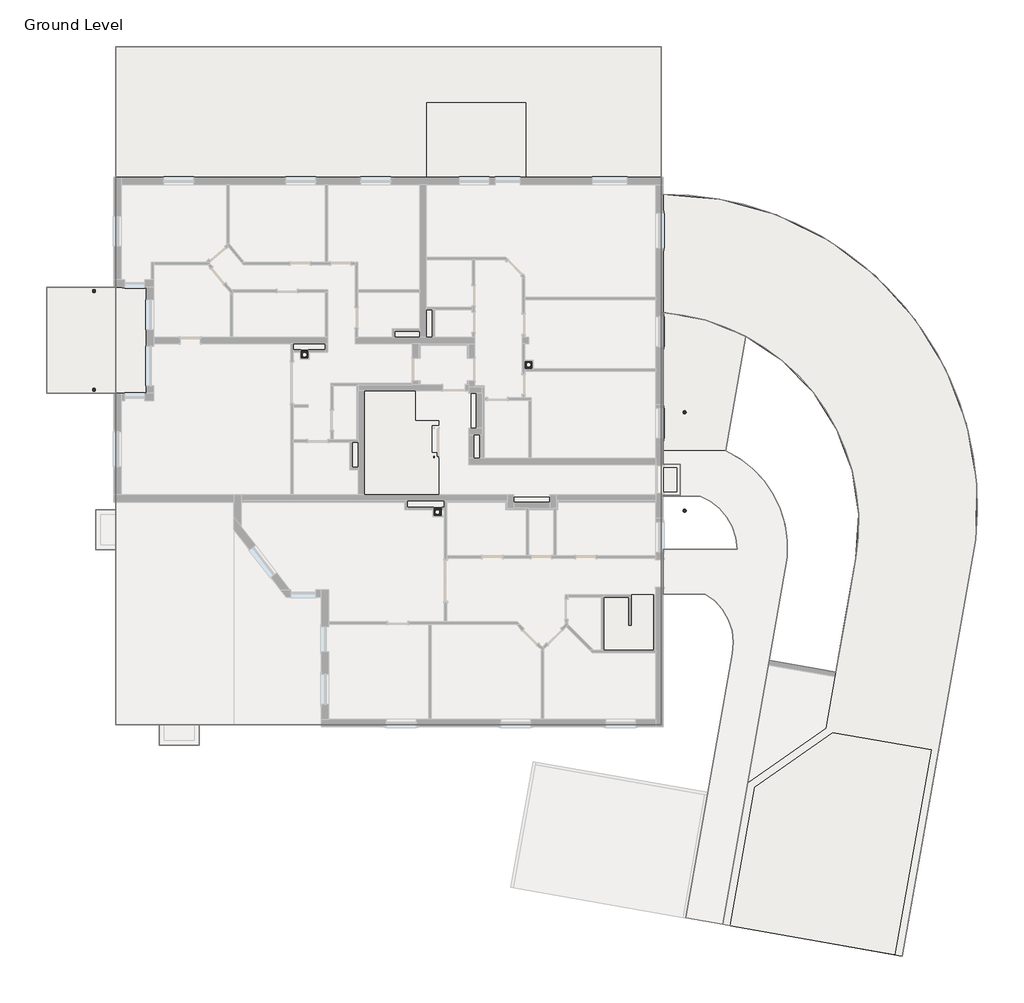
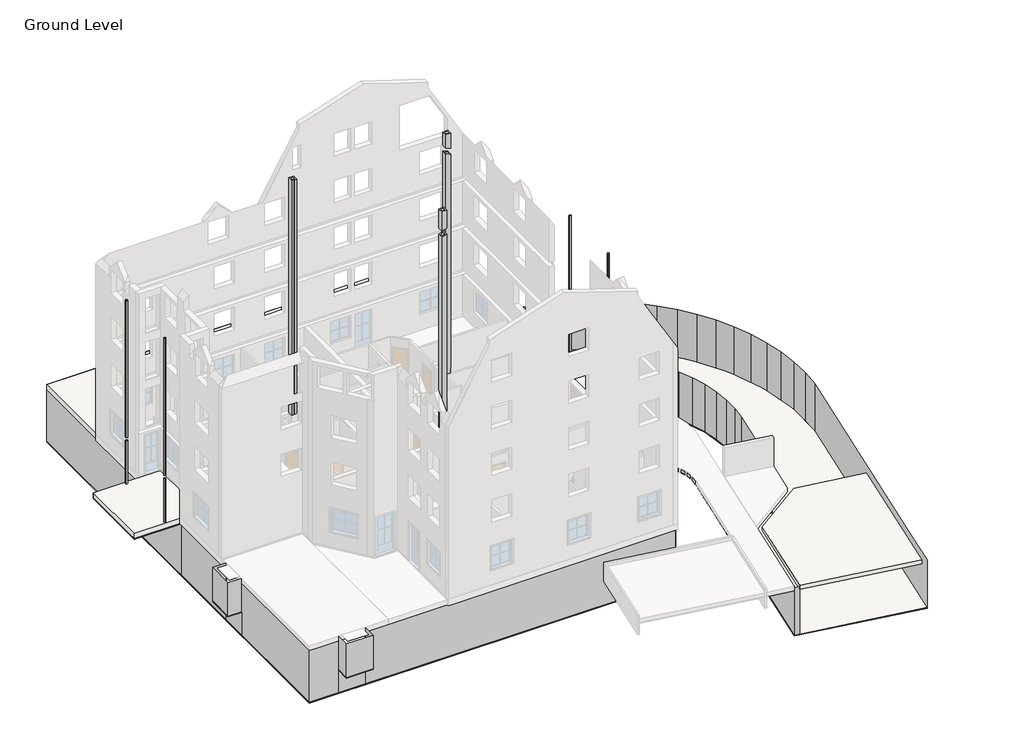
# One storey, part 6 of 6: 9 slabs, 7 columns, 6 proxies.
"""IFC4 building model written with IfcOpenShell, lengths in millimetres."""

from ifc_helpers import new_model, si_unit, point, frame, frame_2d, origin, origin_with_axes, place, context, project, spatial, polyline, circle_curve, ellipse_curve, trimmed, segment, composite_curve, outline, extrude, faceted_brep, triangles, element, save
from ifc_brep_helpers import plane_surface, revolved_surface, advanced_brep

model = new_model("IFC4")

# Units and contexts
model_context = context("Model", 3, world=origin())
ifc_project = project(units=[si_unit("LENGTHUNIT", "METRE", prefix="MILLI")], contexts=[model_context])

# Site, building, storey
site = spatial("IfcSite", under=ifc_project)
building = spatial("IfcBuilding", under=site)
storey = spatial("IfcBuildingStorey", under=building, Name="Ground Level", Elevation=0.0)

# Proxies
placement = place(None, origin())
element("IfcBuildingElementProxy", 1, Name="Building Element Proxy", at=placement, inside=storey, context=model_context, shape_type="Tessellation", body=[
    triangles([(9282.8089691, 10201.4215027, -3720.1595535), (9282.8089691, 10201.4215027, -3140.159491), (9282.8089691, 5465.8076523, -3720.1595535), (9282.8089691, 5465.8076523, -3140.159491)], [[1, 4, 2], [1, 3, 4]], closed=False),
    triangles([(-12557.1916626, 6467.6290604, -3720.1595535), (-12557.1916626, 6467.6290604, -449.1595387), (-12557.1916626, 2217.6290279, -3720.1595535), (-12557.1916626, 2217.6290279, -449.1595387)], [[1, 4, 2], [1, 3, 4]], closed=False),
    triangles([(-12557.1916626, -2432.3710075, -3720.1595535), (-12557.1916626, -2432.3710075, -2260.1595715), (-12557.1916626, -4032.3710197, -3720.1595535), (-12557.1916626, -4032.3710197, -2260.1595715)], [[1, 4, 2], [1, 3, 4]], closed=False),
    triangles([(-9223.5910721, -11052.3707245, -3720.1595535), (-9223.5910721, -11052.3707245, -2260.1595715), (-10823.5916656, -11052.3707245, -3720.1595535), (-10823.5916656, -11052.3707245, -2260.1595715)], [[1, 4, 2], [1, 3, 4]], closed=False),
    triangles([(-12557.1916626, 6467.6290604, -3720.1595535), (-12557.1916626, 6467.6290604, -100.0000008), (-12557.1916626, 16107.629599, -3720.1595535), (-12557.1916626, 16107.629599, -100.0000008), (-10221.4830688, 16107.629599, -3720.1595535), (-10221.4830688, 16107.629599, -100.0000008), (9282.8089691, 16107.629599, -3720.1595535), (9282.8089691, 16107.629599, -100.0000008), (9282.8089691, 10201.4215027, -3720.1595535), (9282.8089691, 10201.4215027, -100.0000008)], [[1, 4, 2], [1, 3, 4], [3, 6, 4], [3, 5, 6], [5, 8, 6], [5, 7, 8], [7, 10, 8], [7, 9, 10]], closed=False),
    triangles([(-12557.1916626, -2432.3710075, -3720.1595535), (-12557.1916626, -2432.3710075, -100.0000008), (-12557.1916626, 2217.6290279, -3720.1595535), (-12557.1916626, 2217.6290279, -100.0000008)], [[1, 4, 2], [1, 3, 4]], closed=False),
    triangles([(-10823.5916656, -11052.3707245, -3720.1595535), (-10823.5916656, -11052.3707245, -100.0000008), (-12557.1916626, -11052.3707245, -3720.1595535), (-12557.1916626, -11052.3707245, -100.0000008), (-12557.1916626, -4032.3710197, -3720.1595535), (-12557.1916626, -4032.3710197, -100.0000008)], [[1, 4, 2], [1, 3, 4], [3, 6, 4], [3, 5, 6]], closed=False),
    triangles([(-9223.5910721, -11052.3707245, -3720.1595535), (-9223.5910721, -11052.3707245, -100.0000008), (5711.1287247, -11052.3707245, -3720.1595535), (5711.1287247, -11052.3707245, -100.0000008), (9282.8089691, -11052.3707245, -3720.1595535), (9282.8089691, -11052.3707245, -100.0000008), (9282.8089691, 5465.8076523, -3720.1595535), (9282.8089691, 5465.8076523, -100.0000008)], [[1, 4, 2], [1, 3, 4], [3, 6, 4], [3, 5, 6], [5, 8, 6], [5, 7, 8]], closed=False),
    triangles([(9282.8089691, 16107.629599, -3720.1595535), (-12557.1916626, 16107.629599, -3720.1595535), (-12557.1916626, -11052.3707245, -3720.1595535), (9282.8089691, -11052.3707245, -3720.1595535)], [[2, 3, 4], [4, 1, 2]], closed=False),
])
element("IfcBuildingElementProxy", 2, Name="Building Element Proxy", at=placement, inside=storey, context=model_context, shape_type="Tessellation", body=[
    triangles([(-9223.5910721, -11052.3707245, -2260.1595715), (-9223.5910721, -11052.3707245, -100.0000008), (-9223.5910721, -11872.3706726, -2260.1595715), (-9223.5910721, -11872.3706726, -100.0000008), (-10823.5916656, -11872.3706726, -2260.1595715), (-10823.5916656, -11872.3706726, -100.0000008), (-10823.5916656, -11052.3707245, -2260.1595715), (-10823.5916656, -11052.3707245, -100.0000008)], [[1, 4, 2], [1, 3, 4], [3, 6, 4], [3, 5, 6], [5, 8, 6], [5, 7, 8]], closed=False),
    triangles([(-9223.5910721, -11872.3706726, -2260.1595715), (-9223.5910721, -11052.3707245, -2260.1595715), (-10823.5916656, -11052.3707245, -2260.1595715), (-10823.5916656, -11872.3706726, -2260.1595715)], [[3, 4, 1], [1, 2, 3]], closed=False),
])
element("IfcBuildingElementProxy", 3, Name="Building Element Proxy", at=placement, inside=storey, context=model_context, shape_type="Tessellation", body=[
    triangles([(-12557.1916626, -2432.3710075, -2260.1595715), (-12557.1916626, -2432.3710075, -100.0000008), (-13363.5912781, -2432.3710075, -2260.1595715), (-13363.5912781, -2432.3710075, -100.0000008), (-13363.5912781, -4032.3710197, -2260.1595715), (-13363.5912781, -4032.3710197, -100.0000008), (-12557.1916626, -4032.3710197, -2260.1595715), (-12557.1916626, -4032.3710197, -100.0000008)], [[1, 4, 2], [1, 3, 4], [3, 6, 4], [3, 5, 6], [5, 8, 6], [5, 7, 8]], closed=False),
    triangles([(-12557.1916626, -2432.3710075, -2260.1595715), (-13363.5912781, -2432.3710075, -2260.1595715), (-13363.5912781, -4032.3710197, -2260.1595715), (-12557.1916626, -4032.3710197, -2260.1595715)], [[2, 3, 1], [4, 1, 3]], closed=False),
])
element("IfcBuildingElementProxy", 4, Name="Building Element Proxy", at=placement, inside=storey, context=model_context, shape_type="Tessellation", body=[
    triangles([(-12557.1916626, 6467.6290604, -449.1595387), (-12557.1916626, 6467.6290604, -100.0000008), (-15337.1963928, 6467.6290604, -449.1595387), (-15337.1963928, 6467.6290604, -100.0000008), (-15337.1963928, 2217.6290279, -449.1595387), (-15337.1963928, 2217.6290279, -100.0000008), (-12557.1916626, 2217.6290279, -449.1595387), (-12557.1916626, 2217.6290279, -100.0000008)], [[1, 4, 2], [1, 3, 4], [3, 6, 4], [3, 5, 6], [5, 8, 6], [5, 7, 8]], closed=False),
    triangles([(-12557.1916626, 6467.6290604, -449.1595387), (-15337.1963928, 6467.6290604, -449.1595387), (-15337.1963928, 2217.6290279, -449.1595387), (-12557.1916626, 2217.6290279, -449.1595387)], [[2, 3, 4], [4, 1, 2]], closed=False),
])
element("IfcBuildingElementProxy", 5, Name="Building Element Proxy", at=placement, inside=storey, context=model_context, shape_type="Tessellation", body=[
    triangles([(13590.5518433, -8463.0683075, -3140.159491), (13590.5518433, -8463.0683075, -310.1595202), (12738.306189, -13373.552298, -3140.159491), (12738.306189, -13373.552298, -310.1595202), (12557.7834869, -14397.3467834, -3140.159491), (12557.7834869, -14397.3467834, -310.1595202), (11738.8509155, -19041.7458527, -3140.159491), (11738.8509155, -19041.7458527, -310.1595202)], [[1, 4, 2], [1, 3, 4], [3, 6, 4], [3, 5, 6], [5, 8, 6], [5, 7, 8]], closed=False),
    triangles([(9282.8089691, 5465.8076523, -3140.159491), (9282.8089691, 5465.8076523, -100.0000008), (10159.5601044, 5359.3926361, -3140.159491), (10159.5601044, 5359.3926361, -100.0000008), (11020.4854614, 5162.3546631, -3140.159491), (11020.4854614, 5162.3546631, -100.0000008), (11856.24375, 4876.8313934, -3140.159491), (11856.24375, 4876.8313934, -100.0000008), (12657.7680817, 4505.9200218, -3140.159491), (12657.7680817, 4505.9200218, -100.0000008), (13416.3624756, 4053.6458839, -3140.159491), (13416.3624756, 4053.6458839, -100.0000008), (14123.7948761, 3524.9153664, -3140.159491), (14123.7948761, 3524.9153664, -100.0000008), (14772.3901703, 2925.4656189, -3140.159491), (14772.3901703, 2925.4656189, -100.0000008), (15355.1115784, 2261.8000237, -3140.159491), (15355.1115784, 2261.8000237, -100.0000008), (15865.6373932, 1541.1195946, -3140.159491), (15865.6373932, 1541.1195946, -100.0000008), (16298.4272552, 771.2434038, -3140.159491), (16298.4272552, 771.2434038, -100.0000008), (16648.7861023, -39.475561, -3140.159491), (16648.7861023, -39.475561, -100.0000008), (16912.9130035, -882.2411345, -3140.159491), (16912.9130035, -882.2411345, -100.0000008), (17087.9406921, -1747.9094433, -3140.159491), (17087.9406921, -1747.9094433, -100.0000008), (17171.9716095, -2627.088192, -3140.159491), (17171.9716095, -2627.088192, -100.0000008), (17164.0941833, -3510.2383553, -3140.159491), (17164.0941833, -3510.2383553, -100.0000008), (17064.3932922, -4387.7783958, -3140.159491), (17064.3932922, -4387.7783958, -100.0000008), (16675.2856476, -6594.5137573, -3140.159491), (16675.2856476, -6594.5137573, -100.0000008), (16262.7282715, -8934.24478, -3140.159491), (16262.7282715, -8934.24478, -100.0000008), (15510.607901, -8801.6261307, -3140.159491), (15510.607901, -8801.6261307, -100.0000008), (13590.5518433, -8463.0683075, -3140.159491), (13590.5518433, -8463.0683075, -100.0000008)], [[1, 4, 2], [1, 3, 4], [3, 6, 4], [3, 5, 6], [5, 8, 6], [5, 7, 8], [7, 10, 8], [7, 9, 10], [9, 12, 10], [9, 11, 12], [11, 14, 12], [11, 13, 14], [13, 16, 14], [13, 15, 16], [15, 18, 16], [15, 17, 18], [17, 20, 18], [17, 19, 20], [19, 22, 20], [19, 21, 22], [21, 24, 22], [21, 23, 24], [23, 26, 24], [23, 25, 26], [25, 28, 26], [25, 27, 28], [27, 30, 28], [27, 29, 30], [29, 32, 30], [29, 31, 32], [31, 34, 32], [31, 33, 34], [33, 36, 34], [33, 35, 36], [35, 38, 36], [35, 37, 38], [37, 40, 38], [37, 39, 40], [39, 42, 40], [39, 41, 42]], closed=False),
    triangles([(12034.2933472, -19093.8403473, -3140.159491), (12034.2933472, -19093.8403473, -100.0000008), (11738.8509155, -19041.7458527, -3140.159491), (11738.8509155, -19041.7458527, -100.0000008)], [[1, 4, 2], [1, 3, 4]], closed=False),
    triangles([(9282.8089691, 10201.4215027, -3140.159491), (9282.8089691, 10201.4215027, -100.0000008), (10392.6609924, 10161.5460297, -3140.159491), (10392.6609924, 10161.5460297, -100.0000008), (11494.6402405, 10023.6858398, -3140.159491), (11494.6402405, 10023.6858398, -100.0000008), (12580.1111938, 9788.9199371, -3140.159491), (12580.1111938, 9788.9199371, -100.0000008), (13640.5708832, 9459.0883255, -3140.159491), (13640.5708832, 9459.0883255, -100.0000008), (14667.7093506, 9036.7745682, -3140.159491), (14667.7093506, 9036.7745682, -100.0000008), (15653.4805756, 8525.2877655, -3140.159491), (15653.4805756, 8525.2877655, -100.0000008), (16590.160611, 7928.635231, -3140.159491), (16590.160611, 7928.635231, -100.0000008), (17470.4092072, 7251.4916794, -3140.159491), (17470.4092072, 7251.4916794, -100.0000008), (18287.3325989, 6499.1620193, -3140.159491), (18287.3325989, 6499.1620193, -100.0000008), (19034.5288513, 5677.5418213, -3140.159491), (19034.5288513, 5677.5418213, -100.0000008), (19706.1436707, 4793.0667389, -3140.159491), (19706.1436707, 4793.0667389, -100.0000008), (20296.9169128, 3852.6671631, -3140.159491), (20296.9169128, 3852.6671631, -100.0000008), (20802.2163025, 2863.7109581, -3140.159491), (20802.2163025, 2863.7109581, -100.0000008), (21176.8329712, 1936.1001366, -3140.159491), (21176.8329712, 1936.1001366, -100.0000008), (21218.0862671, 1833.9466335, -3140.159491), (21218.0862671, 1833.9466335, -100.0000008), (21541.268866, 771.4416475, -3140.159491), (21541.268866, 771.4416475, -100.0000008), (21563.8628357, 663.7140661, -3140.159491), (21563.8628357, 663.7140661, -100.0000008), (21769.2293701, -315.4792173, -3140.159491), (21769.2293701, -315.4792173, -100.0000008), (21900.181842, -1418.3002018, -3140.159491), (21900.181842, -1418.3002018, -100.0000008), (21933.1030884, -2528.3808449, -3140.159491), (21933.1030884, -2528.3808449, -100.0000008), (21867.7326599, -3637.0239304, -3140.159491), (21867.7326599, -3637.0239304, -100.0000008), (19309.6039215, -18144.8994324, -3140.159491), (19309.6039215, -18144.8994324, -100.0000008), (18927.9481476, -20309.3766174, -3140.159491), (18927.9481476, -20309.3766174, -100.0000008)], [[1, 4, 2], [1, 3, 4], [3, 6, 4], [3, 5, 6], [5, 8, 6], [5, 7, 8], [7, 10, 8], [7, 9, 10], [9, 12, 10], [9, 11, 12], [11, 14, 12], [11, 13, 14], [13, 16, 14], [13, 15, 16], [15, 18, 16], [15, 17, 18], [17, 20, 18], [17, 19, 20], [19, 22, 20], [19, 21, 22], [21, 24, 22], [21, 23, 24], [23, 26, 24], [23, 25, 26], [25, 28, 26], [25, 27, 28], [27, 30, 28], [27, 29, 30], [29, 32, 30], [29, 31, 32], [31, 34, 32], [31, 33, 34], [33, 36, 34], [33, 35, 36], [35, 38, 36], [35, 37, 38], [37, 40, 38], [37, 39, 40], [39, 42, 40], [39, 41, 42], [41, 44, 42], [41, 43, 44], [43, 46, 44], [43, 45, 46], [45, 48, 46], [45, 47, 48]], closed=False),
    triangles([(18927.9481476, -20309.3766174, -3140.159491), (21867.7326599, -3637.0239304, -3140.159491), (21933.1030884, -2528.3808449, -3140.159491), (21900.181842, -1418.3002018, -3140.159491), (21769.2293701, -315.4792173, -3140.159491), (21541.268866, 771.4416475, -3140.159491), (21218.0862671, 1833.9466335, -3140.159491), (20802.2163025, 2863.7109581, -3140.159491), (20296.9169128, 3852.6671631, -3140.159491), (19706.1436707, 4793.0667389, -3140.159491), (19034.5288513, 5677.5418213, -3140.159491), (18287.3325989, 6499.1620193, -3140.159491), (17470.4092072, 7251.4916794, -3140.159491), (16590.160611, 7928.635231, -3140.159491), (15653.4805756, 8525.2877655, -3140.159491), (14667.7093506, 9036.7745682, -3140.159491), (13640.5708832, 9459.0883255, -3140.159491), (12580.1111938, 9788.9199371, -3140.159491), (11494.6402405, 10023.6858398, -3140.159491), (10392.6609924, 10161.5460297, -3140.159491), (9282.8089691, 10201.4215027, -3140.159491), (9282.8089691, 5465.8076523, -3140.159491), (10159.5601044, 5359.3926361, -3140.159491), (11020.4854614, 5162.3546631, -3140.159491), (11856.24375, 4876.8313934, -3140.159491), (12657.7680817, 4505.9200218, -3140.159491), (13416.3624756, 4053.6458839, -3140.159491), (14123.7948761, 3524.9153664, -3140.159491), (14772.3901703, 2925.4656189, -3140.159491), (15355.1115784, 2261.8000237, -3140.159491), (15865.6373932, 1541.1195946, -3140.159491), (16298.4272552, 771.2434038, -3140.159491), (16648.7861023, -39.475561, -3140.159491), (16912.9130035, -882.2411345, -3140.159491), (17087.9406921, -1747.9094433, -3140.159491), (17171.9716095, -2627.088192, -3140.159491), (17164.0941833, -3510.2383553, -3140.159491), (17064.3932922, -4387.7783958, -3140.159491), (16262.7282715, -8934.24478, -3140.159491), (13590.5518433, -8463.0683075, -3140.159491), (12738.306189, -13373.552298, -3140.159491), (11738.8509155, -19041.7458527, -3140.159491)], [[39, 41, 1], [26, 27, 15], [41, 39, 40], [10, 30, 31], [13, 28, 29], [14, 27, 28], [29, 30, 11], [41, 42, 1], [15, 27, 14], [20, 23, 19], [21, 22, 20], [20, 22, 23], [23, 24, 19], [26, 16, 25], [16, 26, 15], [25, 16, 17], [18, 19, 24], [18, 25, 17], [18, 24, 25], [37, 38, 2], [35, 36, 4], [34, 35, 5], [37, 2, 36], [3, 36, 2], [35, 4, 5], [36, 3, 4], [38, 39, 2], [34, 5, 6], [29, 11, 12], [13, 14, 28], [29, 12, 13], [32, 33, 7], [31, 32, 9], [32, 7, 8], [8, 9, 32], [11, 30, 10], [9, 10, 31], [7, 33, 6], [33, 34, 6], [39, 1, 2]], closed=False),
])
element("IfcBuildingElementProxy", 6, Name="Building Element Proxy", at=placement, inside=storey, context=model_context, shape_type="Tessellation", body=[
    triangles([(11738.8509155, -19041.7458527, -310.1595202), (11738.8509155, -19041.7458527, -100.0000008), (10248.0349365, -18781.2733795, -310.1595202), (10248.0349365, -18781.2733795, -100.0000008), (10249.849942, -18770.9740082, -310.1595202), (10249.849942, -18770.9740082, -100.0000008), (12113.1583008, -8203.6289108, -310.1595202), (12113.1583008, -8203.6289108, -100.0000008), (12159.5566315, -7739.3892242, -310.1595202), (12159.5566315, -7739.3892242, -100.0000008), (12108.1772095, -7275.6745056, -310.1595202), (12108.1772095, -7275.6745056, -100.0000008), (11961.2791992, -6832.851535, -310.1595202), (11961.2791992, -6832.851535, -100.0000008), (11725.3133698, -6430.3697067, -310.1595202), (11725.3133698, -6430.3697067, -100.0000008), (11410.6442047, -6085.9075928, -310.1595202), (11410.6442047, -6085.9075928, -100.0000008), (11031.0906281, -5814.5939209, -310.1595202), (11031.0906281, -5814.5939209, -100.0000008), (9362.8035049, -5814.5939209, -310.1595202), (9362.8035049, -5814.5939209, -100.0000008), (9362.8035049, -4014.5939072, -310.1595202), (9362.8035049, -4014.5939072, -100.0000008), (12309.6439819, -4014.5939072, -310.1595202), (12309.6439819, -4014.5939072, -100.0000008), (12258.1110809, -3561.7892784, -310.1595202), (12258.1110809, -3561.7892784, -100.0000008), (12118.4858826, -3127.9776764, -310.1595202), (12118.4858826, -3127.9776764, -100.0000008), (11896.2296814, -2730.1214378, -310.1595202), (11896.2296814, -2730.1214378, -100.0000008), (11600.0303192, -2383.7776073, -310.1595202), (11600.0303192, -2383.7776073, -100.0000008), (11241.4719727, -2102.4885269, -310.1595202), (11241.4719727, -2102.4885269, -100.0000008), (10834.5747162, -1897.2530891, -310.1595202), (10834.5747162, -1897.2530891, -100.0000008), (9362.8035049, -1897.2530891, -310.1595202), (9362.8035049, -1897.2530891, -100.0000008), (9362.8035049, -1852.370945, -310.1595202), (9362.8035049, -1852.370945, -100.0000008), (10036.4083191, -1852.370945, -310.1595202), (10036.4083191, -1852.370945, -100.0000008), (10036.4083191, -612.3709791, -310.1595202), (10036.4083191, -612.3709791, -100.0000008), (9362.8035049, -612.3709791, -310.1595202), (9362.8035049, -612.3709791, -100.0000008), (9362.8035049, 5449.8940887, -310.1595202), (9362.8035049, 5449.8940887, -100.0000008), (10219.316922, 5338.5723953, -310.1595202), (10219.316922, 5338.5723953, -100.0000008), (11060.0365356, 5140.5902939, -310.1595202), (11060.0365356, 5140.5902939, -100.0000008), (11876.2181122, 4858.0075424, -310.1595202), (11876.2181122, 4858.0075424, -100.0000008), (12659.3737976, 4493.762915, -310.1595202), (12659.3737976, 4493.762915, -100.0000008), (11854.5147858, -70.8200504, -310.1595202), (11854.5147858, -70.8200504, -100.0000008), (12427.6321289, -390.5782308, -310.1595202), (12427.6321289, -390.5782308, -100.0000008), (12944.9470642, -794.4269451, -310.1595202), (12944.9470642, -794.4269451, -100.0000008), (13394.2277802, -1272.8163494, -310.1595202), (13394.2277802, -1272.8163494, -100.0000008), (13764.8481812, -1814.4337257, -310.1595202), (13764.8481812, -1814.4337257, -100.0000008), (14048.0448486, -2406.4714256, -310.1595202), (14048.0448486, -2406.4714256, -100.0000008), (14237.120517, -3034.9289955, -310.1595202), (14237.120517, -3034.9289955, -100.0000008), (14327.6045288, -3684.9457146, -310.1595202), (14327.6045288, -3684.9457146, -100.0000008), (14317.3574799, -4341.1498466, -310.1595202), (14317.3574799, -4341.1498466, -100.0000008), (13590.5518433, -8463.0683075, -310.1595202), (13590.5518433, -8463.0683075, -100.0000008)], [[1, 4, 2], [1, 3, 4], [3, 6, 4], [3, 5, 6], [5, 8, 6], [5, 7, 8], [7, 10, 8], [7, 9, 10], [9, 12, 10], [9, 11, 12], [11, 14, 12], [11, 13, 14], [13, 16, 14], [13, 15, 16], [15, 18, 16], [15, 17, 18], [17, 20, 18], [17, 19, 20], [19, 22, 20], [19, 21, 22], [21, 24, 22], [21, 23, 24], [23, 26, 24], [23, 25, 26], [25, 28, 26], [25, 27, 28], [27, 30, 28], [27, 29, 30], [29, 32, 30], [29, 31, 32], [31, 34, 32], [31, 33, 34], [33, 36, 34], [33, 35, 36], [35, 38, 36], [35, 37, 38], [37, 40, 38], [37, 39, 40], [39, 42, 40], [39, 41, 42], [41, 44, 42], [41, 43, 44], [43, 46, 44], [43, 45, 46], [45, 48, 46], [45, 47, 48], [47, 50, 48], [47, 49, 50], [49, 52, 50], [49, 51, 52], [51, 54, 52], [51, 53, 54], [53, 56, 54], [53, 55, 56], [55, 58, 56], [55, 57, 58], [57, 60, 58], [57, 59, 60], [59, 62, 60], [59, 61, 62], [61, 64, 62], [61, 63, 64], [63, 66, 64], [63, 65, 66], [65, 68, 66], [65, 67, 68], [67, 70, 68], [67, 69, 70], [69, 72, 70], [69, 71, 72], [71, 74, 72], [71, 73, 74], [73, 76, 74], [73, 75, 76], [75, 78, 76], [75, 77, 78]], closed=False),
    triangles([(14317.3574799, -4341.1498466, -310.1595202), (14327.6045288, -3684.9457146, -310.1595202), (14237.120517, -3034.9289955, -310.1595202), (14048.0448486, -2406.4714256, -310.1595202), (13764.8481812, -1814.4337257, -310.1595202), (13394.2277802, -1272.8163494, -310.1595202), (12944.9470642, -794.4269451, -310.1595202), (12427.6321289, -390.5782308, -310.1595202), (11854.5147858, -70.8200504, -310.1595202), (12659.3737976, 4493.762915, -310.1595202), (11876.2181122, 4858.0075424, -310.1595202), (11060.0365356, 5140.5902939, -310.1595202), (10219.316922, 5338.5723953, -310.1595202), (9362.8035049, 5449.8940887, -310.1595202), (9362.8035049, -612.3709791, -310.1595202), (10036.4083191, -612.3709791, -310.1595202), (10036.4083191, -1852.370945, -310.1595202), (9362.8035049, -1852.370945, -310.1595202), (9362.8035049, -1897.2530891, -310.1595202), (10834.5747162, -1897.2530891, -310.1595202), (11241.4719727, -2102.4885269, -310.1595202), (11600.0303192, -2383.7776073, -310.1595202), (11896.2296814, -2730.1214378, -310.1595202), (12118.4858826, -3127.9776764, -310.1595202), (12258.1110809, -3561.7892784, -310.1595202), (12309.6439819, -4014.5939072, -310.1595202), (9362.8035049, -4014.5939072, -310.1595202), (9362.8035049, -5814.5939209, -310.1595202), (11031.0906281, -5814.5939209, -310.1595202), (11410.6442047, -6085.9075928, -310.1595202), (11725.3133698, -6430.3697067, -310.1595202), (11961.2791992, -6832.851535, -310.1595202), (12108.1772095, -7275.6745056, -310.1595202), (12159.5566315, -7739.3892242, -310.1595202), (12113.1583008, -8203.6289108, -310.1595202), (10248.0349365, -18781.2733795, -310.1595202), (11738.8509155, -19041.7458527, -310.1595202), (12738.306189, -13373.552298, -310.1595202), (13590.5518433, -8463.0683075, -310.1595202)], [[27, 28, 29], [31, 26, 30], [26, 27, 29], [30, 26, 29], [9, 21, 8], [21, 22, 7], [35, 36, 38], [13, 14, 15], [13, 15, 16], [18, 19, 17], [20, 9, 16], [16, 12, 13], [16, 9, 12], [12, 9, 11], [20, 21, 9], [16, 17, 20], [20, 17, 19], [38, 36, 37], [34, 35, 39], [33, 1, 32], [33, 34, 39], [1, 33, 39], [26, 1, 2], [31, 1, 26], [26, 2, 25], [39, 35, 38], [25, 2, 3], [21, 7, 8], [9, 10, 11], [23, 24, 5], [23, 6, 22], [4, 5, 24], [7, 22, 6], [23, 5, 6], [3, 4, 24], [24, 25, 3], [31, 32, 1]], closed=False),
])

# Columns
element("IfcColumn", 7, ObjectType="AT Kamin : 300/300/160", at=placement, inside=storey, context=model_context, shape_type="AdvancedBrep", body=[
    advanced_brep(
    [(-4857.1962165, 3917.6290541, 17750.0), (-5157.1962165, 3917.6290541, 17750.0), (-5157.1962165, 3617.6290541, 17750.0), (-4857.1962165, 3617.6290541, 17750.0), (-5087.1962165, 3767.6290541, 17750.0), (-4927.1962165, 3767.6290541, 17750.0), (-4857.1962165, 3917.6290541, 0.0), (-4857.1962165, 3617.6290541, 0.0), (-5157.1962165, 3617.6290541, 0.0), (-5157.1962165, 3917.6290541, 0.0), (-5087.1962165, 3767.6290541, 0.0), (-4927.1962165, 3767.6290541, 0.0), (-4857.1962165, 3917.6290541, 16902.7215009), (-4857.1962165, 3917.6290541, 16524.1951001), (-5157.1962165, 3917.6290541, 16426.7191913), (-5157.1962165, 3917.6290541, 16805.245592), (-5157.1962165, 3617.6290541, 16426.7191913), (-5157.1962165, 3617.6290541, 16805.245592), (-4857.1962165, 3617.6290541, 16524.1951001), (-4857.1962165, 3617.6290541, 16902.7215009)],
    [
        (0, 1),
        (1, 2),
        (2, 3),
        (3, 0),
        (4, 5, circle_curve(frame((-5007.1962165, 3767.6290541, 17750.0), z_axis=(0.0, 0.0, -1.0), x_axis=(1.0, 0.0, 0.0)), 80.0)),
        (5, 4, circle_curve(frame((-5007.1962165, 3767.6290541, 17750.0), z_axis=(0.0, 0.0, -1.0), x_axis=(1.0, 0.0, 0.0)), 80.0)),
        (6, 7),
        (7, 8),
        (8, 9),
        (9, 6),
        (10, 11, circle_curve(frame((-5007.1962165, 3767.6290541, 0.0), z_axis=(0.0, 0.0, 1.0), x_axis=(1.0, 0.0, 0.0)), 80.0)),
        (11, 10, circle_curve(frame((-5007.1962165, 3767.6290541, 0.0), z_axis=(0.0, 0.0, 1.0), x_axis=(1.0, 0.0, 0.0)), 80.0)),
        (0, 12),
        (12, 13),
        (13, 6),
        (9, 14),
        (14, 15),
        (15, 1),
        (8, 16),
        (16, 17),
        (17, 2),
        (7, 18),
        (18, 19),
        (19, 3),
        (4, 10),
        (11, 5),
    ],
    [
        plane_surface(frame((-5157.1962165, 3917.6290541, 17750.0), z_axis=(0.0, 0.0, 1.0), x_axis=(-1.0, 0.0, 0.0))),
        plane_surface(frame((-5157.1962165, 3917.6290541, 0.0), z_axis=(0.0, 0.0, -1.0), x_axis=(1.0, 0.0, 0.0))),
        plane_surface(frame((-4857.1962165, 3917.6290541, 17750.0), z_axis=(0.0, 1.0, 0.0), x_axis=(0.0, 0.0, -1.0))),
        plane_surface(frame((-5157.1962165, 3917.6290541, 17750.0), z_axis=(-1.0, 0.0, 0.0), x_axis=(0.0, 0.0, -1.0))),
        plane_surface(frame((-5157.1962165, 3617.6290541, 17750.0), z_axis=(0.0, -1.0, 0.0), x_axis=(0.0, 0.0, -1.0))),
        plane_surface(frame((-4857.1962165, 3617.6290541, 17750.0), z_axis=(1.0, 0.0, 0.0), x_axis=(0.0, 0.0, -1.0))),
        revolved_surface(polyline([(-4927.1962165, 3767.6290541, 0.0), (-4927.1962165, 3767.6290541, 17750.0)]), (-5007.1962165, 3767.6290541, 0.0), (0.0, 0.0, -1.0)),
    ],
    [
        (0, [[1, 2, 3, 4], [5, 6]]),
        (1, [[7, 8, 9, 10], [11, 12]]),
        (2, [[-1, 13, 14, 15, -10, 16, 17, 18]]),
        (3, [[-2, -18, -17, -16, -9, 19, 20, 21]]),
        (4, [[-3, -21, -20, -19, -8, 22, 23, 24]]),
        (5, [[-4, -24, -23, -22, -7, -15, -14, -13]]),
        (6, [[-5, 25, -12, 26]]),
        (6, [[-6, -26, -11, -25]]),
    ],
),
])
element("IfcColumn", 8, ObjectType="AT Kamin : 300/300/160", at=placement, inside=storey, context=model_context, shape_type="AdvancedBrep", body=[
    advanced_brep(
    [(4112.8037835, 3516.2076978, 17750.0), (3812.8037835, 3516.2076978, 17750.0), (3812.8037835, 3216.2076978, 17750.0), (4112.8037835, 3216.2076978, 17750.0), (3882.8037835, 3366.2076978, 17750.0), (4042.8037835, 3366.2076978, 17750.0), (4112.8037835, 3516.2076978, 16807.8848523), (3812.8037835, 3516.2076978, 16905.3607612), (3812.8037835, 3216.2076978, 16905.3607612), (4112.8037835, 3216.2076978, 16807.8848523), (3882.8037835, 3366.2076978, 16882.6163825), (4042.8037835, 3366.2076978, 16830.6292311)],
    [
        (0, 1),
        (1, 2),
        (2, 3),
        (3, 0),
        (4, 5, circle_curve(frame((3962.8037835, 3366.2076978, 17750.0), z_axis=(0.0, 0.0, -1.0), x_axis=(1.0, 0.0, 0.0)), 80.0)),
        (5, 4, circle_curve(frame((3962.8037835, 3366.2076978, 17750.0), z_axis=(0.0, 0.0, -1.0), x_axis=(1.0, 0.0, 0.0)), 80.0)),
        (0, 6),
        (6, 7),
        (7, 1),
        (7, 8),
        (8, 2),
        (8, 9),
        (9, 3),
        (9, 6),
        (4, 10),
        (10, 11, ellipse_curve(frame((3962.8037835, 3366.2076978, 16856.6228068), z_axis=(-0.30901699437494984, 0.0, -0.9510565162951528), x_axis=(0.9510565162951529, 0.0, -0.30901699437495)), 84.1169779, 80.0)),
        (11, 5),
        (11, 10, ellipse_curve(frame((3962.8037835, 3366.2076978, 16856.6228068), z_axis=(-0.30901699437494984, 0.0, -0.9510565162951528), x_axis=(0.9510565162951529, 0.0, -0.30901699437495)), 84.1169779, 80.0)),
    ],
    [
        plane_surface(frame((3812.8037835, 3516.2076978, 17750.0), z_axis=(0.0, 0.0, 1.0), x_axis=(-1.0, 0.0, 0.0))),
        plane_surface(frame((4112.8037835, 3516.2076978, 17750.0), z_axis=(0.0, 1.0, 0.0), x_axis=(0.0, 0.0, -1.0))),
        plane_surface(frame((3812.8037835, 3516.2076978, 17750.0), z_axis=(-1.0, 0.0, 0.0), x_axis=(0.0, 0.0, -1.0))),
        plane_surface(frame((3812.8037835, 3216.2076978, 17750.0), z_axis=(0.0, -1.0, 0.0), x_axis=(0.0, 0.0, -1.0))),
        plane_surface(frame((4112.8037835, 3216.2076978, 17750.0), z_axis=(1.0, 0.0, 0.0), x_axis=(0.0, 0.0, -1.0))),
        revolved_surface(polyline([(4042.8037835, 3366.2076978, 16830.6292311), (4042.8037835, 3366.2076978, 17750.0)]), (3962.8037835, 3366.2076978, 0.0), (0.0, 0.0, -1.0)),
        plane_surface(frame((6985.5802922, -11532.3709459, 15874.4631818), z_axis=(-0.30901699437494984, 0.0, -0.9510565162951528), x_axis=(0.0, 1.0, 0.0))),
    ],
    [
        (0, [[1, 2, 3, 4], [5, 6]]),
        (1, [[-1, 7, 8, 9]]),
        (2, [[-2, -9, 10, 11]]),
        (3, [[-3, -11, 12, 13]]),
        (4, [[-4, -13, 14, -7]]),
        (5, [[-5, 15, 16, 17]]),
        (5, [[-6, -17, 18, -15]]),
        (6, [[-8, -14, -12, -10], [-16, -18]]),
    ],
),
    advanced_brep(
    [(4112.8037835, 3516.2076978, 0.0), (4112.8037835, 3216.2076978, 0.0), (3812.8037835, 3216.2076978, 0.0), (3812.8037835, 3516.2076978, 0.0), (3882.8037835, 3366.2076978, 0.0), (4042.8037835, 3366.2076978, 0.0), (4112.8037835, 3516.2076978, 16429.3584516), (3812.8037835, 3516.2076978, 16526.8343605), (3812.8037835, 3216.2076978, 16526.8343605), (4112.8037835, 3216.2076978, 16429.3584516), (3882.8037835, 3366.2076978, 16504.0899817), (4042.8037835, 3366.2076978, 16452.1028303)],
    [
        (0, 1),
        (1, 2),
        (2, 3),
        (3, 0),
        (4, 5, circle_curve(frame((3962.8037835, 3366.2076978, 0.0), z_axis=(0.0, 0.0, 1.0), x_axis=(1.0, 0.0, 0.0)), 80.0)),
        (5, 4, circle_curve(frame((3962.8037835, 3366.2076978, 0.0), z_axis=(0.0, 0.0, 1.0), x_axis=(1.0, 0.0, 0.0)), 80.0)),
        (6, 7),
        (7, 8),
        (8, 9),
        (9, 6),
        (10, 11, ellipse_curve(frame((3962.8037835, 3366.2076978, 16478.096406), z_axis=(-0.30901699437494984, 0.0, -0.9510565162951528), x_axis=(0.9510565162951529, 0.0, -0.30901699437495)), 84.1169779, 80.0)),
        (11, 10, ellipse_curve(frame((3962.8037835, 3366.2076978, 16478.096406), z_axis=(-0.30901699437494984, 0.0, -0.9510565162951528), x_axis=(0.9510565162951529, 0.0, -0.30901699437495)), 84.1169779, 80.0)),
        (3, 7),
        (6, 0),
        (2, 8),
        (1, 9),
        (5, 11),
        (10, 4),
    ],
    [
        plane_surface(frame((3812.8037835, 3516.2076978, 0.0), z_axis=(0.0, 0.0, -1.0), x_axis=(1.0, 0.0, 0.0))),
        plane_surface(frame((6985.5802922, -11532.3709459, 15495.936781), z_axis=(0.30901699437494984, 0.0, 0.9510565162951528), x_axis=(0.0, 1.0, 0.0))),
        plane_surface(frame((4112.8037835, 3516.2076978, 17750.0), z_axis=(0.0, 1.0, 0.0), x_axis=(0.0, 0.0, -1.0))),
        plane_surface(frame((3812.8037835, 3516.2076978, 17750.0), z_axis=(-1.0, 0.0, 0.0), x_axis=(0.0, 0.0, -1.0))),
        plane_surface(frame((3812.8037835, 3216.2076978, 17750.0), z_axis=(0.0, -1.0, 0.0), x_axis=(0.0, 0.0, -1.0))),
        plane_surface(frame((4112.8037835, 3216.2076978, 17750.0), z_axis=(1.0, 0.0, 0.0), x_axis=(0.0, 0.0, -1.0))),
        revolved_surface(polyline([(4042.8037835, 3366.2076978, 0.0), (4042.8037835, 3366.2076978, 16504.0899817)]), (3962.8037835, 3366.2076978, 0.0), (0.0, 0.0, -1.0)),
    ],
    [
        (0, [[1, 2, 3, 4], [5, 6]]),
        (1, [[7, 8, 9, 10], [11, 12]]),
        (2, [[-4, 13, -7, 14]]),
        (3, [[-3, 15, -8, -13]]),
        (4, [[-2, 16, -9, -15]]),
        (5, [[-1, -14, -10, -16]]),
        (6, [[-6, 17, -11, 18]]),
        (6, [[-5, -18, -12, -17]]),
    ],
),
])
element("IfcColumn", 9, ObjectType="AT Kamin : 300/300/160", at=placement, inside=storey, context=model_context, shape_type="AdvancedBrep", body=[
    advanced_brep(
    [(463.5618728, -2382.3709459, 17750.0), (163.5618728, -2382.3709459, 17750.0), (163.5618728, -2682.3709459, 17750.0), (463.5618728, -2682.3709459, 17750.0), (233.5618728, -2532.3709459, 17750.0), (393.5618728, -2532.3709459, 17750.0), (463.5618728, -2382.3709459, 16623.4506996), (163.5618728, -2382.3709459, 16525.9747908), (163.5618728, -2682.3709459, 16525.9747908), (463.5618728, -2682.3709459, 16623.4506996), (233.5618728, -2532.3709459, 16548.7191695), (393.5618728, -2532.3709459, 16600.7063209)],
    [
        (0, 1),
        (1, 2),
        (2, 3),
        (3, 0),
        (4, 5, circle_curve(frame((313.5618728, -2532.3709459, 17750.0), z_axis=(0.0, 0.0, -1.0), x_axis=(1.0, 0.0, 0.0)), 80.0)),
        (5, 4, circle_curve(frame((313.5618728, -2532.3709459, 17750.0), z_axis=(0.0, 0.0, -1.0), x_axis=(1.0, 0.0, 0.0)), 80.0)),
        (0, 6),
        (6, 7),
        (7, 1),
        (7, 8),
        (8, 2),
        (8, 9),
        (9, 3),
        (9, 6),
        (4, 10),
        (10, 11, ellipse_curve(frame((313.5618728, -2532.3709459, 16574.7127452), z_axis=(0.30901699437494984, 0.0, -0.9510565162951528), x_axis=(-0.9510565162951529, 0.0, -0.30901699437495)), 84.1169779, 80.0)),
        (11, 5),
        (11, 10, ellipse_curve(frame((313.5618728, -2532.3709459, 16574.7127452), z_axis=(0.30901699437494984, 0.0, -0.9510565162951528), x_axis=(-0.9510565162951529, 0.0, -0.30901699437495)), 84.1169779, 80.0)),
    ],
    [
        plane_surface(frame((163.5618728, -2382.3709459, 17750.0), z_axis=(0.0, 0.0, 1.0), x_axis=(-1.0, 0.0, 0.0))),
        plane_surface(frame((463.5618728, -2382.3709459, 17750.0), z_axis=(0.0, 1.0, 0.0), x_axis=(0.0, 0.0, -1.0))),
        plane_surface(frame((163.5618728, -2382.3709459, 17750.0), z_axis=(-1.0, 0.0, 0.0), x_axis=(0.0, 0.0, -1.0))),
        plane_surface(frame((163.5618728, -2682.3709459, 17750.0), z_axis=(0.0, -1.0, 0.0), x_axis=(0.0, 0.0, -1.0))),
        plane_surface(frame((463.5618728, -2682.3709459, 17750.0), z_axis=(1.0, 0.0, 0.0), x_axis=(0.0, 0.0, -1.0))),
        revolved_surface(polyline([(393.5618728, -2532.3709459, 16548.7191695), (393.5618728, -2532.3709459, 17750.0)]), (313.5618728, -2532.3709459, 0.0), (0.0, 0.0, -1.0)),
        plane_surface(frame((-1841.5846805, 437.0391776, 15874.4631818), z_axis=(0.30901699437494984, 0.0, -0.9510565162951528), x_axis=(0.0, -1.0, 0.0))),
    ],
    [
        (0, [[1, 2, 3, 4], [5, 6]]),
        (1, [[-1, 7, 8, 9]]),
        (2, [[-2, -9, 10, 11]]),
        (3, [[-3, -11, 12, 13]]),
        (4, [[-4, -13, 14, -7]]),
        (5, [[-5, 15, 16, 17]]),
        (5, [[-6, -17, 18, -15]]),
        (6, [[-8, -14, -12, -10], [-16, -18]]),
    ],
),
    advanced_brep(
    [(463.5618728, -2382.3709459, 0.0), (463.5618728, -2682.3709459, 0.0), (163.5618728, -2682.3709459, 0.0), (163.5618728, -2382.3709459, 0.0), (233.5618728, -2532.3709459, 0.0), (393.5618728, -2532.3709459, 0.0), (463.5618728, -2382.3709459, 16244.9242989), (163.5618728, -2382.3709459, 16147.44839), (163.5618728, -2682.3709459, 16147.44839), (463.5618728, -2682.3709459, 16244.9242989), (233.5618728, -2532.3709459, 16170.1927688), (393.5618728, -2532.3709459, 16222.1799202)],
    [
        (0, 1),
        (1, 2),
        (2, 3),
        (3, 0),
        (4, 5, circle_curve(frame((313.5618728, -2532.3709459, 0.0), z_axis=(0.0, 0.0, 1.0), x_axis=(1.0, 0.0, 0.0)), 80.0)),
        (5, 4, circle_curve(frame((313.5618728, -2532.3709459, 0.0), z_axis=(0.0, 0.0, 1.0), x_axis=(1.0, 0.0, 0.0)), 80.0)),
        (6, 7),
        (7, 8),
        (8, 9),
        (9, 6),
        (10, 11, ellipse_curve(frame((313.5618728, -2532.3709459, 16196.1863445), z_axis=(0.30901699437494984, 0.0, -0.9510565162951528), x_axis=(-0.9510565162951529, 0.0, -0.30901699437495)), 84.1169779, 80.0)),
        (11, 10, ellipse_curve(frame((313.5618728, -2532.3709459, 16196.1863445), z_axis=(0.30901699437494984, 0.0, -0.9510565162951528), x_axis=(-0.9510565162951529, 0.0, -0.30901699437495)), 84.1169779, 80.0)),
        (3, 7),
        (6, 0),
        (2, 8),
        (1, 9),
        (5, 11),
        (10, 4),
    ],
    [
        plane_surface(frame((163.5618728, -2382.3709459, 0.0), z_axis=(0.0, 0.0, -1.0), x_axis=(1.0, 0.0, 0.0))),
        plane_surface(frame((-1841.5846805, 437.0391776, 15495.936781), z_axis=(-0.30901699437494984, 0.0, 0.9510565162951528), x_axis=(0.0, -1.0, 0.0))),
        plane_surface(frame((463.5618728, -2382.3709459, 17750.0), z_axis=(0.0, 1.0, 0.0), x_axis=(0.0, 0.0, -1.0))),
        plane_surface(frame((163.5618728, -2382.3709459, 17750.0), z_axis=(-1.0, 0.0, 0.0), x_axis=(0.0, 0.0, -1.0))),
        plane_surface(frame((163.5618728, -2682.3709459, 17750.0), z_axis=(0.0, -1.0, 0.0), x_axis=(0.0, 0.0, -1.0))),
        plane_surface(frame((463.5618728, -2682.3709459, 17750.0), z_axis=(1.0, 0.0, 0.0), x_axis=(0.0, 0.0, -1.0))),
        revolved_surface(polyline([(393.5618728, -2532.3709459, 0.0), (393.5618728, -2532.3709459, 16222.1799202)]), (313.5618728, -2532.3709459, 0.0), (0.0, 0.0, -1.0)),
    ],
    [
        (0, [[1, 2, 3, 4], [5, 6]]),
        (1, [[7, 8, 9, 10], [11, 12]]),
        (2, [[-4, 13, -7, 14]]),
        (3, [[-3, 15, -8, -13]]),
        (4, [[-2, 16, -9, -15]]),
        (5, [[-1, -14, -10, -16]]),
        (6, [[-6, 17, -11, 18]]),
        (6, [[-5, -18, -12, -17]]),
    ],
),
])
element("IfcColumn", 10, ObjectType="M_Round Column : 120", at=placement, inside=storey, context=model_context, shape_type="SweptSolid", body=[
    extrude(outline(composite_curve([segment(trimmed(circle_curve(frame_2d((10209.0690178, 1462.6290541)), 60.0), [point((10209.0690178, 1522.6290541))], [point((10269.0690178, 1462.6290541))], False, "CARTESIAN"), True, "CONTINUOUS"), segment(trimmed(circle_curve(frame_2d((10209.0690178, 1462.6290541)), 60.0), [point((10269.0690178, 1462.6290541))], [point((10149.0690178, 1462.6290541))], False, "CARTESIAN"), True, "CONTINUOUS"), segment(trimmed(circle_curve(frame_2d((10209.0690178, 1462.6290541)), 60.0), [point((10149.0690178, 1462.6290541))], [point((10209.0690178, 1522.6290541))], False, "CARTESIAN"), True, "CONTINUOUS")], self_intersect=False)), frame((0.0, 0.0, 2850.0), z_axis=(0.0, 0.0, 1.0), x_axis=(1.0, 0.0, 0.0)), (0.0, 0.0, 1.0), 8630.0),
    extrude(outline(composite_curve([segment(trimmed(circle_curve(frame_2d((10209.0690178, 1462.6290541)), 60.0), [point((10269.0690178, 1462.6290541))], [point((10149.0690178, 1462.6290541))], False, "CARTESIAN"), True, "CONTINUOUS"), segment(trimmed(circle_curve(frame_2d((10209.0690178, 1462.6290541)), 60.0), [point((10149.0690178, 1462.6290541))], [point((10209.0690178, 1522.6290541))], False, "CARTESIAN"), True, "CONTINUOUS"), segment(trimmed(circle_curve(frame_2d((10209.0690178, 1462.6290541)), 60.0), [point((10209.0690178, 1522.6290541))], [point((10269.0690178, 1462.6290541))], False, "CARTESIAN"), True, "CONTINUOUS")], self_intersect=False)), origin_with_axes(), (0.0, 0.0, 1.0), 2630.0),
])
element("IfcColumn", 11, ObjectType="M_Round Column : 120", at=placement, inside=storey, context=model_context, shape_type="SweptSolid", body=[
    extrude(outline(composite_curve([segment(trimmed(circle_curve(frame_2d((10209.0690178, -2477.3709459)), 60.0), [point((10269.0690178, -2477.3709459))], [point((10209.0690178, -2537.3709459))], False, "CARTESIAN"), True, "CONTINUOUS"), segment(trimmed(circle_curve(frame_2d((10209.0690178, -2477.3709459)), 60.0), [point((10209.0690178, -2537.3709459))], [point((10149.0690178, -2477.3709459))], False, "CARTESIAN"), True, "CONTINUOUS"), segment(trimmed(circle_curve(frame_2d((10209.0690178, -2477.3709459)), 60.0), [point((10149.0690178, -2477.3709459))], [point((10269.0690178, -2477.3709459))], False, "CARTESIAN"), True, "CONTINUOUS")], self_intersect=False)), frame((0.0, 0.0, 2850.0), z_axis=(0.0, 0.0, 1.0), x_axis=(1.0, 0.0, 0.0)), (0.0, 0.0, 1.0), 8630.0),
    extrude(outline(composite_curve([segment(trimmed(circle_curve(frame_2d((10209.0690178, -2477.3709459)), 60.0), [point((10269.0690178, -2477.3709459))], [point((10209.0690178, -2537.3709459))], False, "CARTESIAN"), True, "CONTINUOUS"), segment(trimmed(circle_curve(frame_2d((10209.0690178, -2477.3709459)), 60.0), [point((10209.0690178, -2537.3709459))], [point((10149.0690178, -2477.3709459))], False, "CARTESIAN"), True, "CONTINUOUS"), segment(trimmed(circle_curve(frame_2d((10209.0690178, -2477.3709459)), 60.0), [point((10149.0690178, -2477.3709459))], [point((10269.0690178, -2477.3709459))], False, "CARTESIAN"), True, "CONTINUOUS")], self_intersect=False)), origin_with_axes(), (0.0, 0.0, 1.0), 2630.0),
])
element("IfcColumn", 12, ObjectType="M_Round Column : 120", at=placement, inside=storey, context=model_context, shape_type="SweptSolid", body=[
    extrude(outline(composite_curve([segment(trimmed(circle_curve(frame_2d((-13437.1962165, 6317.6290541)), 60.0), [point((-13437.1962165, 6377.6290541))], [point((-13377.1962165, 6317.6290541))], False, "CARTESIAN"), True, "CONTINUOUS"), segment(trimmed(circle_curve(frame_2d((-13437.1962165, 6317.6290541)), 60.0), [point((-13377.1962165, 6317.6290541))], [point((-13497.1962165, 6317.6290541))], False, "CARTESIAN"), True, "CONTINUOUS"), segment(trimmed(circle_curve(frame_2d((-13437.1962165, 6317.6290541)), 60.0), [point((-13497.1962165, 6317.6290541))], [point((-13437.1962165, 6377.6290541))], False, "CARTESIAN"), True, "CONTINUOUS")], self_intersect=False)), frame((0.0, 0.0, 2850.0), z_axis=(0.0, 0.0, 1.0), x_axis=(1.0, 0.0, 0.0)), (0.0, 0.0, 1.0), 8630.0),
    extrude(outline(composite_curve([segment(trimmed(circle_curve(frame_2d((-13437.1962165, 6317.6290541)), 60.0), [point((-13377.1962165, 6317.6290541))], [point((-13497.1962165, 6317.6290541))], False, "CARTESIAN"), True, "CONTINUOUS"), segment(trimmed(circle_curve(frame_2d((-13437.1962165, 6317.6290541)), 60.0), [point((-13497.1962165, 6317.6290541))], [point((-13437.1962165, 6377.6290541))], False, "CARTESIAN"), True, "CONTINUOUS"), segment(trimmed(circle_curve(frame_2d((-13437.1962165, 6317.6290541)), 60.0), [point((-13437.1962165, 6377.6290541))], [point((-13377.1962165, 6317.6290541))], False, "CARTESIAN"), True, "CONTINUOUS")], self_intersect=False)), frame((0.0, 0.0, -100.0), z_axis=(0.0, 0.0, 1.0), x_axis=(1.0, 0.0, 0.0)), (0.0, 0.0, 1.0), 2730.0),
])
element("IfcColumn", 13, ObjectType="M_Round Column : 120", at=placement, inside=storey, context=model_context, shape_type="SweptSolid", body=[
    extrude(outline(composite_curve([segment(trimmed(circle_curve(frame_2d((-13437.1962165, 2367.6290541)), 60.0), [point((-13377.1962165, 2367.6290541))], [point((-13437.1962165, 2307.6290541))], False, "CARTESIAN"), True, "CONTINUOUS"), segment(trimmed(circle_curve(frame_2d((-13437.1962165, 2367.6290541)), 60.0), [point((-13437.1962165, 2307.6290541))], [point((-13497.1962165, 2367.6290541))], False, "CARTESIAN"), True, "CONTINUOUS"), segment(trimmed(circle_curve(frame_2d((-13437.1962165, 2367.6290541)), 60.0), [point((-13497.1962165, 2367.6290541))], [point((-13377.1962165, 2367.6290541))], False, "CARTESIAN"), True, "CONTINUOUS")], self_intersect=False)), frame((0.0, 0.0, 2850.0), z_axis=(0.0, 0.0, 1.0), x_axis=(1.0, 0.0, 0.0)), (0.0, 0.0, 1.0), 8630.0),
    extrude(outline(composite_curve([segment(trimmed(circle_curve(frame_2d((-13437.1962165, 2367.6290541)), 60.0), [point((-13377.1962165, 2367.6290541))], [point((-13437.1962165, 2307.6290541))], False, "CARTESIAN"), True, "CONTINUOUS"), segment(trimmed(circle_curve(frame_2d((-13437.1962165, 2367.6290541)), 60.0), [point((-13437.1962165, 2307.6290541))], [point((-13497.1962165, 2367.6290541))], False, "CARTESIAN"), True, "CONTINUOUS"), segment(trimmed(circle_curve(frame_2d((-13437.1962165, 2367.6290541)), 60.0), [point((-13497.1962165, 2367.6290541))], [point((-13377.1962165, 2367.6290541))], False, "CARTESIAN"), True, "CONTINUOUS")], self_intersect=False)), frame((0.0, 0.0, -100.0), z_axis=(0.0, 0.0, 1.0), x_axis=(1.0, 0.0, 0.0)), (0.0, 0.0, 1.0), 2730.0),
])

# Slabs
element("IfcSlab", 14, ObjectType="Asphalt Terrace", at=placement, inside=storey, context=model_context, shape_type="SweptSolid", body=[
    extrude(outline(composite_curve([segment(polyline([(9362.8037835, -70.8200492), (9362.8037835, 5459.9248888)]), True, "CONTINUOUS"), segment(trimmed(circle_curve(frame_2d((8700.9450523, -2993.1355038)), 8478.9319481), [point((9362.8037835, 5459.9248888))], [point((12661.1981728, 4504.1094704))], False, "CARTESIAN"), True, "CONTINUOUS"), segment(polyline([(12661.1981728, 4504.1094704), (11854.5146636, -70.8200492), (9362.8037835, -70.8200492)]), True, "CONTINUOUS")], self_intersect=False)), frame((0.0, 0.0, -270.0), z_axis=(0.0, 0.0, 1.0), x_axis=(1.0, 0.0, 0.0)), (0.0, 0.0, 1.0), 240.0),
])
element("IfcSlab", 15, ObjectType="Asphalt Terrace", at=placement, inside=storey, context=model_context, shape_type="SweptSolid", body=[
    extrude(outline(polyline([(18632.5053612, -20257.2831938), (12034.293416, -19093.8404034), (13012.1707018, -13548.0227304), (16140.0017147, -11357.8918769), (20079.2327267, -12052.4845876), (18632.5053612, -20257.2831938)])), frame((0.0, 0.0, -270.0), z_axis=(0.0, 0.0, 1.0), x_axis=(1.0, 0.0, 0.0)), (0.0, 0.0, 1.0), 240.0),
])
element("IfcSlab", 16, ObjectType="Rollierung", at=placement, inside=storey, context=model_context, shape_type="SweptSolid", body=[
    extrude(outline(polyline([(9282.8088399, 16107.6290541), (9282.8088399, -11052.3709459), (-12557.1911601, -11052.3709459), (-12557.1911601, 16107.6290541), (9282.8088399, 16107.6290541)])), frame((0.0, 0.0, -3720.0), z_axis=(0.0, 0.0, 1.0), x_axis=(1.0, 0.0, 0.0)), (0.0, 0.0, 1.0), 40.0),
])
element("IfcSlab", 17, ObjectType="Rollierung", at=placement, inside=storey, context=model_context, shape_type="SweptSolid", body=[
    extrude(outline(polyline([(-12557.1911601, 6467.6290541), (-12557.1911601, 2217.6290541), (-15337.1962165, 2217.6290541), (-15337.1962165, 6467.6290541), (-12557.1911601, 6467.6290541)])), frame((0.0, 0.0, -449.0), z_axis=(0.0, 0.0, 1.0), x_axis=(1.0, 0.0, 0.0)), (0.0, 0.0, 1.0), 40.0),
])
element("IfcSlab", 18, ObjectType="Rollierung", at=placement, inside=storey, context=model_context, shape_type="SweptSolid", body=[
    extrude(outline(composite_curve([segment(polyline([(18927.9476871, -20309.3776471), (11738.8510901, -19041.7459501), (12738.306605, -13373.5520589), (13590.5523257, -8463.068288), (16262.7280726, -8934.2449693), (17064.3928143, -4387.7782943)]), True, "CONTINUOUS"), segment(trimmed(circle_curve(frame_2d((8700.9450523, -2993.1355038)), 8478.9319481), [point((17064.3928143, -4387.7782943))], [point((9282.8088399, 5465.8077821))], True, "CARTESIAN"), True, "CONTINUOUS"), segment(polyline([(9282.8088399, 5465.8077821), (9282.8088399, 10201.4215084)]), True, "CONTINUOUS"), segment(trimmed(circle_curve(frame_2d((9387.6836517, -2344.9016522)), 12546.7614777), [point((9282.8088399, 10201.4215084))], [point((21867.7334693, -3637.023987))], False, "CARTESIAN"), True, "CONTINUOUS"), segment(polyline([(21867.7334693, -3637.023987), (18927.9476871, -20309.3776471)]), True, "CONTINUOUS")], self_intersect=False)), frame((0.0, 0.0, -3140.0), z_axis=(0.0, 0.0, 1.0), x_axis=(1.0, 0.0, 0.0)), (0.0, 0.0, 1.0), 40.0),
])
element("IfcSlab", 19, ObjectType="STB240 + 60 Grass", at=placement, inside=storey, context=model_context, shape_type="Brep", body=[
    faceted_brep([(-12557.1911601, 16107.6290541, -409.0), (-12257.1911601, 16107.6290541, -409.0), (9282.8088399, 16107.6290541, -409.0), (9282.8088399, 15807.6290541, -409.0), (9282.8088399, 10867.6290541, -409.0), (3862.8037835, 10867.6290541, -409.0), (3862.8037835, 13867.6290541, -409.0), (-137.1962165, 13867.6290541, -409.0), (-137.1962165, 10867.6290541, -409.0), (-12557.1911601, 10867.6290541, -409.0), (9282.8088399, 16107.6290541, -100.0), (-12557.1911601, 16107.6290541, -100.0), (-12557.1911601, 10867.6290541, -100.0), (-137.1962165, 10867.6290541, -100.0), (-137.1962165, 13867.6290541, -100.0), (3862.8037835, 13867.6290541, -100.0), (3862.8037835, 10867.6290541, -100.0), (9282.8088399, 10867.6290541, -100.0)], [[[0, 1, 2, 3, 4, 5, 6, 7, 8, 9]], [[10, 11, 12, 13, 14, 15, 16, 17]], [[2, 1, 0, 11, 10]], [[4, 3, 2, 10, 17]], [[5, 4, 17, 16]], [[6, 5, 16, 15]], [[7, 6, 15, 14]], [[8, 7, 14, 13]], [[9, 8, 13, 12]], [[0, 9, 12, 11]]]),
])
element("IfcSlab", 20, ObjectType="STB240 + 60 Terrace", at=placement, inside=storey, context=model_context, shape_type="Brep", body=[
    faceted_brep([(-15337.1962165, 2217.6290541, -409.0), (-15337.1962165, 6467.6290541, -409.0), (-12557.1911601, 6467.6290541, -409.0), (-12257.1911601, 6467.6290541, -409.0), (-11337.1962165, 6467.6290541, -409.0), (-11337.1962165, 2217.6290541, -409.0), (-12257.1911601, 2217.6290541, -409.0), (-12557.1911601, 2217.6290541, -409.0), (-15337.1962165, 2217.6290541, -100.0), (-11337.1962165, 2217.6290541, -100.0), (-11337.1962165, 6467.6290541, -100.0), (-15337.1962165, 6467.6290541, -100.0), (-11337.1962165, 6467.6290541, -400.0), (-11337.1962165, 2217.6290541, -400.0)], [[[0, 1, 2, 3, 4, 5, 6, 7]], [[8, 9, 10, 11]], [[1, 0, 8, 11]], [[4, 3, 2, 1, 11, 10, 12]], [[5, 4, 12, 10, 9, 13]], [[0, 7, 6, 5, 13, 9, 8]]]),
])
element("IfcSlab", 21, ObjectType="STB240 + 60 Terrace", at=placement, inside=storey, context=model_context, shape_type="SweptSolid", body=[
    extrude(outline(polyline([(3862.8037835, 10867.6290541), (-137.1962165, 10867.6290541), (-137.1962165, 13867.6290541), (3862.8037835, 13867.6290541), (3862.8037835, 10867.6290541)])), frame((0.0, 0.0, -409.0), z_axis=(0.0, 0.0, 1.0), x_axis=(1.0, 0.0, 0.0)), (0.0, 0.0, 1.0), 309.0),
])
element("IfcSlab", 22, ObjectType="Standards 400mm", at=placement, inside=storey, context=model_context, shape_type="SweptSolid", body=[
    extrude(outline(polyline([(9916.4088399, -1732.3709459), (9362.8037835, -1732.3709459), (9362.8037835, -732.3709459), (9916.4088399, -732.3709459), (9916.4088399, -1732.3709459)])), frame((0.0, 0.0, -70.0), z_axis=(0.0, 0.0, 1.0), x_axis=(1.0, 0.0, 0.0)), (0.0, 0.0, 1.0), 40.0),
])

save(model, "model.ifc")
